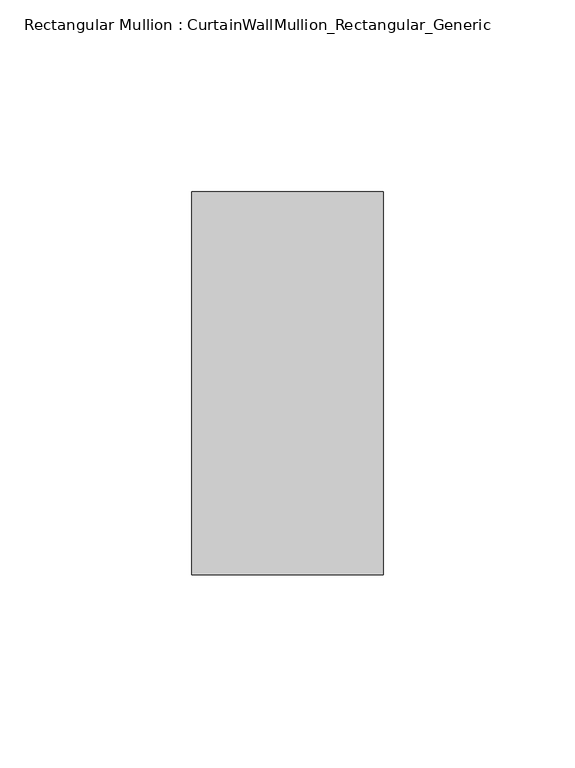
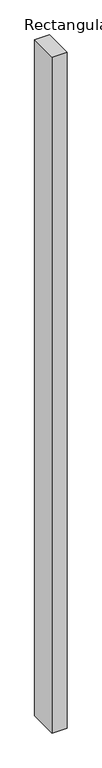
"""IFC4 building model written with IfcOpenShell, lengths in millimetres: member geometry, Rectangular Mullion : CurtainWallMullion_Rectangular_Generic."""

from ifc_helpers import new_model, si_unit, frame, origin, place, context, project, spatial, polyline, outline, extrude, source, transform, mapped, element, save


def rectangular_mullion_curtainwallmullion_rectangular_generic_397fb318(model_context):
    return source(origin(), model_context, "Body", "SweptSolid", [
        extrude(outline(polyline([(0.0, 50.0), (0.0, -50.0), (-50.0, -50.0), (-50.0, 50.0), (0.0, 50.0)])), frame((0.0, 0.0, -2375.0), z_axis=(0.0, 0.0, 1.0), x_axis=(1.0, 0.0, 0.0)), (0.0, 0.0, 1.0), 2375.0),
    ])


if __name__ == "__main__":
    model = new_model("IFC4")
    model_context = context("Model", 3, world=origin())
    ifc_project = project(units=[si_unit("LENGTHUNIT", "METRE", prefix="MILLI")], contexts=[model_context])
    site = spatial("IfcSite", under=ifc_project)
    building = spatial("IfcBuilding", under=site)
    placement = place(None, origin())
    rectangular_mullion_curtainwallmullion_rectangular_generic_shape = rectangular_mullion_curtainwallmullion_rectangular_generic_397fb318(model_context)
    element("IfcMember", 1, ObjectType="Rectangular Mullion : CurtainWallMullion_Rectangular_Generic", at=placement, inside=building, context=model_context, shape_type="MappedRepresentation", body=[
        mapped(rectangular_mullion_curtainwallmullion_rectangular_generic_shape, transform((0.0, 0.0, 0.0), x_axis=(1.0, 0.0, 0.0), y_axis=(0.0, 1.0, 0.0), z_axis=(0.0, 0.0, 1.0))),
    ])
    save(model, "model.ifc")
